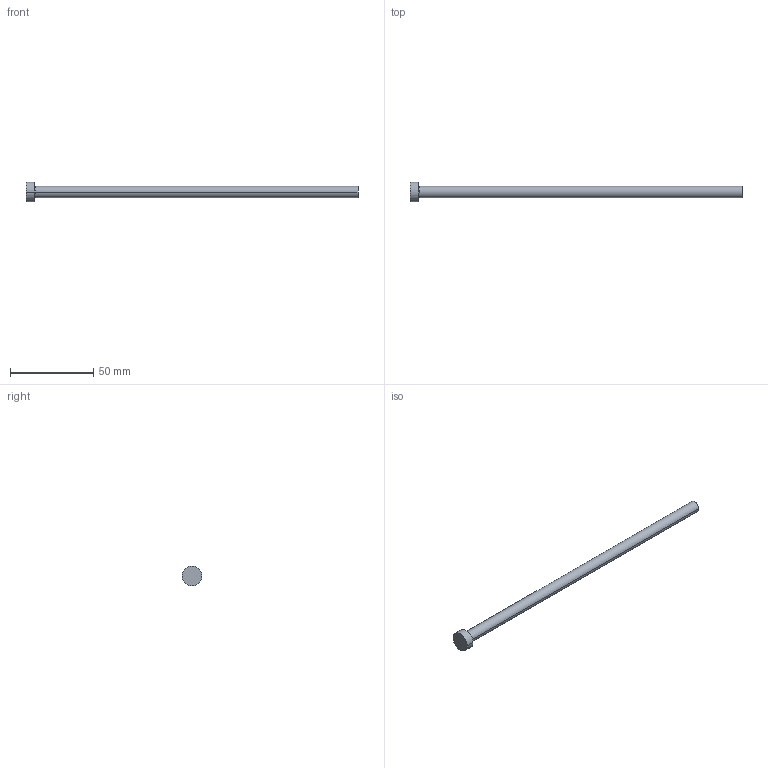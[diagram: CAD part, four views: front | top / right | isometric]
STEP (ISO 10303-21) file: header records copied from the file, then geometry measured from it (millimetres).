
FILE_DESCRIPTION (( 'STEP AP214' ), '1' );
FILE_NAME ('A-7x200.STEP', '2020-05-29T15:46:35', ( 'August' ), ( '' ), 'SwSTEP 2.0', 'SolidWorks 2018', '' );
FILE_SCHEMA (( 'AUTOMOTIVE_DESIGN' ));
Length unit declared in the file: millimetre
Products named in the file (1): A-7x200
Bounding box: 200 x 12 x 12 mm (x, y, z)
Volume: 8071.2 mm3; surface area: 4698.4 mm2
Topology: 1 solids, 1 shells, 9 faces, 16 edges, 10 vertices
Faces by surface type: cylinder 4, plane 3, torus 2
Entity records: 260 total; most frequent: DIRECTION 48, CARTESIAN_POINT 36, ORIENTED_EDGE 32, AXIS2_PLACEMENT_3D 22, EDGE_CURVE 16, CIRCLE 12, EDGE_LOOP 10, VERTEX_POINT 10
